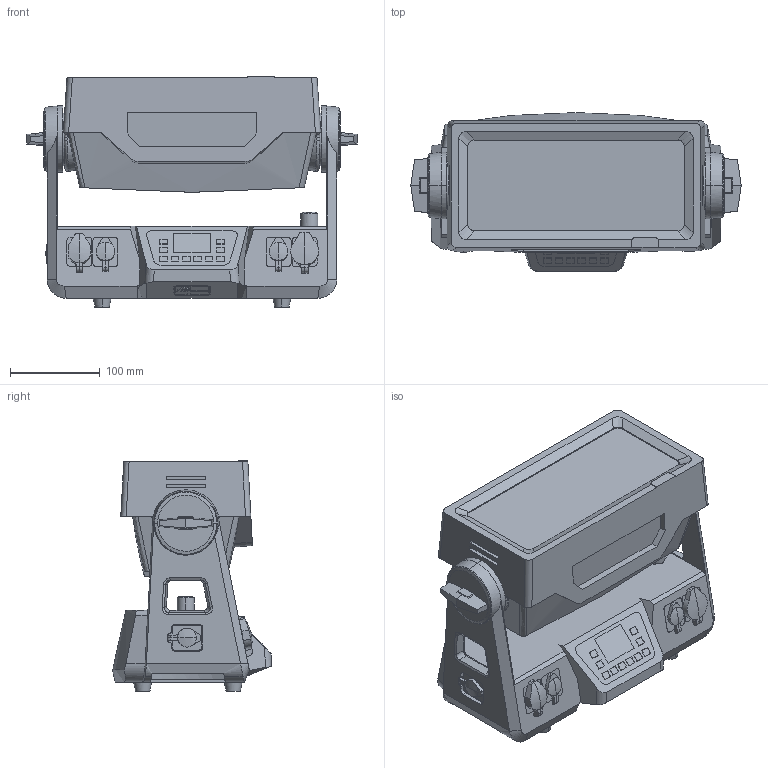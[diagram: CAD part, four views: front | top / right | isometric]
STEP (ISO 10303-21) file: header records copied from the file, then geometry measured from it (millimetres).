
FILE_DESCRIPTION(/* description */ (''),/* implementation_level */ '2;1');
FILE_NAME(/* name */ 'ROXX_NEO mini_3D_step',/* time_stamp */ '2025-03-14T12:16:18+01:00',/* author */ (''),/* organization */ (''),/* preprocessor_version */ 'ST-DEVELOPER v16.5',/* originating_system */ 'Rhino 7.38',/* authorisation */ '');
FILE_SCHEMA (('CONFIG_CONTROL_DESIGN'));
Length unit declared in the file: millimetre
Products named in the file (1): Document
Bounding box: 367.91 x 176.74 x 256.4 mm (x, y, z)
Volume: 4189937 mm3; surface area: 404534.5 mm2
Topology: 1 solids, 2 shells, 654 faces, 1747 edges, 1136 vertices
Faces by surface type: plane 372, cylinder 156, bspline 126
Entity records: 23521 total; most frequent: CARTESIAN_POINT 12167, ORIENTED_EDGE 3504, EDGE_CURVE 1752, B_SPLINE_CURVE_WITH_KNOTS 1188, VERTEX_POINT 1136, EDGE_LOOP 698, ADVANCED_FACE 654, FACE_OUTER_BOUND 654
